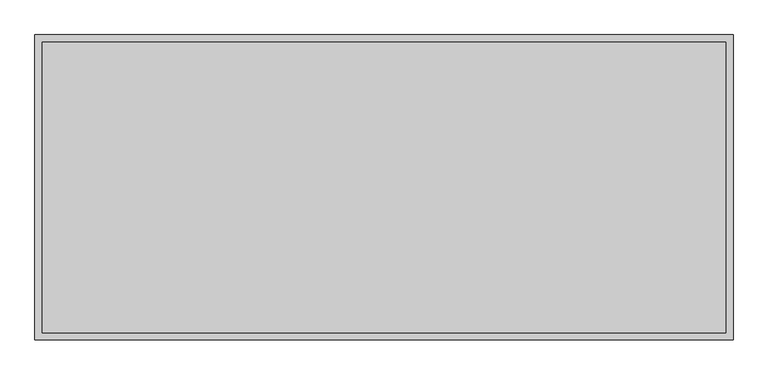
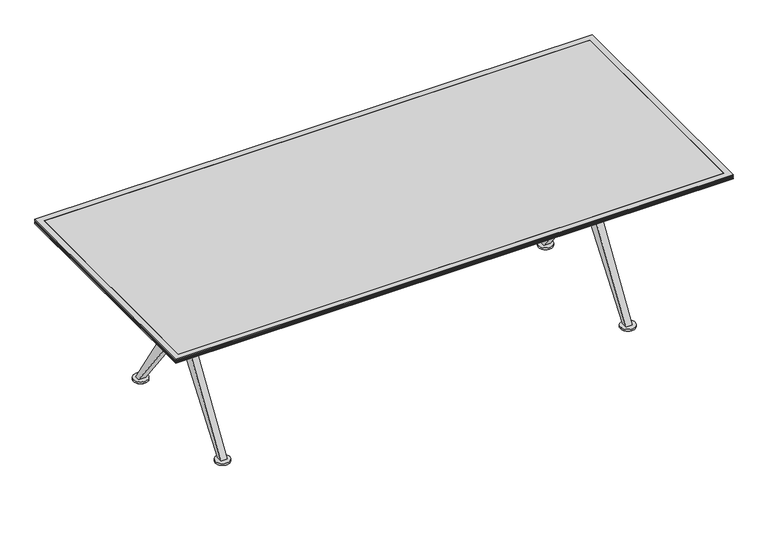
"""IFC4 building model written with IfcOpenShell, lengths in millimetres: furniture geometry, Coalesse_AM_Table_Conference_Ballet_Rectangular_XBase : Folding - 96L x 42W."""

from ifc_helpers import new_model, si_unit, point, frame, frame_2d, origin, origin_with_axes, place, context, project, spatial, polyline, circle_curve, trimmed, segment, composite_curve, outline, extrude, faceted_brep, source, transform, mapped, element, save
from ifc_brep_helpers import plane_surface, cylinder_surface, advanced_brep


def furniture_6506d081(model_context):
    return source(origin(), model_context, "Body", "SolidModel", [
        extrude(outline(composite_curve([segment(trimmed(circle_curve(frame_2d((-885.8365536, 310.3799254)), 25.4), [point((-911.2365536, 310.3799254))], [point((-860.4365536, 310.3799254))], False, "CARTESIAN"), True, "CONTINUOUS"), segment(trimmed(circle_curve(frame_2d((-885.8365536, 310.3799254)), 25.4), [point((-860.4365536, 310.3799254))], [point((-911.2365536, 310.3799254))], False, "CARTESIAN"), True, "CONTINUOUS")], self_intersect=False)), origin_with_axes(), (0.0, 0.0, 1.0), 4.5427804),
        extrude(outline(composite_curve([segment(trimmed(circle_curve(frame_2d((-886.4541541, -311.83186)), 25.4), [point((-911.8541541, -311.83186))], [point((-861.0541541, -311.83186))], False, "CARTESIAN"), True, "CONTINUOUS"), segment(trimmed(circle_curve(frame_2d((-886.4541541, -311.83186)), 25.4), [point((-861.0541541, -311.83186))], [point((-911.8541541, -311.83186))], False, "CARTESIAN"), True, "CONTINUOUS")], self_intersect=False)), origin_with_axes(), (0.0, 0.0, 1.0), 4.5427804),
        extrude(outline(composite_curve([segment(trimmed(circle_curve(frame_2d((885.8365536, 310.388)), 25.4), [point((860.4365536, 310.388))], [point((911.2365536, 310.388))], False, "CARTESIAN"), True, "CONTINUOUS"), segment(trimmed(circle_curve(frame_2d((885.8365536, 310.388)), 25.4), [point((911.2365536, 310.388))], [point((860.4365536, 310.388))], False, "CARTESIAN"), True, "CONTINUOUS")], self_intersect=False)), origin_with_axes(), (0.0, 0.0, 1.0), 4.5427804),
        extrude(outline(composite_curve([segment(trimmed(circle_curve(frame_2d((886.4541541, -311.83186)), 25.4), [point((861.0541541, -311.83186))], [point((911.8541541, -311.83186))], False, "CARTESIAN"), True, "CONTINUOUS"), segment(trimmed(circle_curve(frame_2d((886.4541541, -311.83186)), 25.4), [point((911.8541541, -311.83186))], [point((861.0541541, -311.83186))], False, "CARTESIAN"), True, "CONTINUOUS")], self_intersect=False)), origin_with_axes(), (0.0, 0.0, 1.0), 4.5427804),
        extrude(outline(composite_curve([segment(trimmed(circle_curve(frame_2d((-885.8365536, 310.3799254)), 31.7510292), [point((-917.5875828, 310.3799254))], [point((-854.0855244, 310.3799254))], False, "CARTESIAN"), True, "CONTINUOUS"), segment(trimmed(circle_curve(frame_2d((-885.8365536, 310.3799254)), 31.7510292), [point((-854.0855244, 310.3799254))], [point((-917.5875828, 310.3799254))], False, "CARTESIAN"), True, "CONTINUOUS")], self_intersect=False)), frame((0.0, 0.0, 4.5427804), z_axis=(0.0, 0.0, 1.0), x_axis=(1.0, 0.0, 0.0)), (0.0, 0.0, 1.0), 8.1572196),
        extrude(outline(composite_curve([segment(trimmed(circle_curve(frame_2d((-886.4541541, -311.83186)), 31.75), [point((-918.2041541, -311.83186))], [point((-854.7041541, -311.83186))], False, "CARTESIAN"), True, "CONTINUOUS"), segment(trimmed(circle_curve(frame_2d((-886.4541541, -311.83186)), 31.75), [point((-854.7041541, -311.83186))], [point((-918.2041541, -311.83186))], False, "CARTESIAN"), True, "CONTINUOUS")], self_intersect=False)), frame((0.0, 0.0, 4.5427804), z_axis=(0.0, 0.0, 1.0), x_axis=(1.0, 0.0, 0.0)), (0.0, 0.0, 1.0), 8.1572196),
        extrude(outline(composite_curve([segment(trimmed(circle_curve(frame_2d((885.8365536, 310.388)), 31.7510292), [point((854.0855244, 310.388))], [point((917.5875828, 310.388))], False, "CARTESIAN"), True, "CONTINUOUS"), segment(trimmed(circle_curve(frame_2d((885.8365536, 310.388)), 31.7510292), [point((917.5875828, 310.388))], [point((854.0855244, 310.388))], False, "CARTESIAN"), True, "CONTINUOUS")], self_intersect=False)), frame((0.0, 0.0, 4.5427804), z_axis=(0.0, 0.0, 1.0), x_axis=(1.0, 0.0, 0.0)), (0.0, 0.0, 1.0), 8.1572196),
        extrude(outline(composite_curve([segment(trimmed(circle_curve(frame_2d((886.4541541, -311.83186)), 31.75), [point((854.7041541, -311.83186))], [point((918.2041541, -311.83186))], False, "CARTESIAN"), True, "CONTINUOUS"), segment(trimmed(circle_curve(frame_2d((886.4541541, -311.83186)), 31.75), [point((918.2041541, -311.83186))], [point((854.7041541, -311.83186))], False, "CARTESIAN"), True, "CONTINUOUS")], self_intersect=False)), frame((0.0, 0.0, 4.5427804), z_axis=(0.0, 0.0, 1.0), x_axis=(1.0, 0.0, 0.0)), (0.0, 0.0, 1.0), 8.1572196),
        extrude(outline(polyline([(21.0343629, 381.0), (21.0343629, 482.7111245), (322.2625018, 12.7), (299.8750745, 12.7), (21.0343629, 381.0)])), frame((871.5375, 0.0, 0.0), z_axis=(1.0, 0.0, 0.0), x_axis=(0.0, 1.0, 0.0)), (0.0, 0.0, 1.0), 28.575),
        extrude(outline(polyline([(-21.0343629, 381.0), (-299.8750745, 12.7), (-322.2625018, 12.7), (-21.0343629, 482.7111245), (-21.0343629, 381.0)])), frame((871.5375, 0.0, 0.0), z_axis=(1.0, 0.0, 0.0), x_axis=(0.0, 1.0, 0.0)), (0.0, 0.0, 1.0), 28.575),
        extrude(outline(polyline([(21.0343629, 381.0), (21.0343629, 482.7111245), (322.2625018, 12.7), (299.8750745, 12.7), (21.0343629, 381.0)])), frame((-900.1125, 0.0, 0.0), z_axis=(1.0, 0.0, 0.0), x_axis=(0.0, 1.0, 0.0)), (0.0, 0.0, 1.0), 28.5877172),
        extrude(outline(polyline([(-21.0343629, 381.0), (-299.8750745, 12.7), (-322.2625018, 12.7), (-21.0343629, 482.7111245), (-21.0343629, 381.0)])), frame((-900.1125, 0.0, 0.0), z_axis=(1.0, 0.0, 0.0), x_axis=(0.0, 1.0, 0.0)), (0.0, 0.0, 1.0), 28.5877172),
        extrude(outline(polyline([(-21.0343629, 577.7388634), (-333.375, 698.5000242), (-305.990625, 698.5000242), (-21.0343629, 641.3500242), (-21.0343629, 577.7388634)])), frame((871.5375, 0.0, 0.0), z_axis=(1.0, 0.0, 0.0), x_axis=(0.0, 1.0, 0.0)), (0.0, 0.0, 1.0), 28.575),
        extrude(outline(polyline([(21.0343629, 577.7388634), (21.0343629, 641.3501773), (305.990625, 698.5000242), (333.375, 698.5000242), (21.0343629, 577.7388634)])), frame((871.5375, 0.0, 0.0), z_axis=(1.0, 0.0, 0.0), x_axis=(0.0, 1.0, 0.0)), (0.0, 0.0, 1.0), 28.575),
        extrude(outline(polyline([(-21.0343629, 577.7388634), (-333.375, 698.5000242), (-305.990625, 698.5000242), (-21.0343629, 641.3500242), (-21.0343629, 577.7388634)])), frame((-900.1125, 0.0, 0.0), z_axis=(1.0, 0.0, 0.0), x_axis=(0.0, 1.0, 0.0)), (0.0, 0.0, 1.0), 28.5877172),
        extrude(outline(polyline([(21.0343629, 577.7388634), (21.0343629, 641.3501773), (305.990625, 698.5000242), (333.375, 698.5000242), (21.0343629, 577.7388634)])), frame((-900.1125, 0.0, 0.0), z_axis=(1.0, 0.0, 0.0), x_axis=(0.0, 1.0, 0.0)), (0.0, 0.0, 1.0), 28.5877172),
        advanced_brep(
        [(864.4154775, 12.6999879, 492.1250121), (-864.4154775, 12.6999879, 492.1250121), (-864.4154775, 12.6999879, 568.3250121), (864.4154775, 12.6999879, 568.3250121), (-861.0125298, 0.0, 568.3250121), (-864.4154775, -12.6999879, 568.3250121), (864.4154775, -12.6999879, 568.3250121), (861.0125298, 0.0, 568.3250121), (-864.4154775, -12.6999879, 492.1250121), (864.4154775, -12.6999879, 492.1250121), (861.0125298, 0.0, 492.1250121), (-861.0125298, 0.0, 492.1250121), (-911.8125298, 0.0, 641.3500242), (-861.0125298, 0.0, 641.3500242), (861.0125298, 0.0, 641.3500242), (911.8125298, 0.0, 641.3500242), (-911.8125298, 0.0, 381.0), (-861.0125298, 0.0, 381.0), (861.0125298, 0.0, 381.0), (911.8125298, 0.0, 381.0)],
        [
            (0, 1),
            (1, 2),
            (2, 3),
            (3, 0),
            (2, 4, circle_curve(frame((-886.4125298, 0.0, 568.3250121), z_axis=(0.0, 0.0, -1.0), x_axis=(1.0, 0.0, 0.0)), 25.4)),
            (4, 5, circle_curve(frame((-886.4125298, 0.0, 568.3250121), z_axis=(0.0, 0.0, -1.0), x_axis=(1.0, 0.0, 0.0)), 25.4)),
            (5, 6),
            (6, 7, circle_curve(frame((886.4125298, 0.0, 568.3250121), z_axis=(0.0, 0.0, -1.0), x_axis=(1.0, 0.0, 0.0)), 25.4)),
            (7, 3, circle_curve(frame((886.4125298, 0.0, 568.3250121), z_axis=(0.0, 0.0, -1.0), x_axis=(1.0, 0.0, 0.0)), 25.4)),
            (5, 8),
            (8, 9),
            (9, 6),
            (0, 10, circle_curve(frame((886.4125298, 0.0, 492.1250121), z_axis=(0.0, 0.0, 1.0), x_axis=(1.0, 0.0, 0.0)), 25.4)),
            (10, 9, circle_curve(frame((886.4125298, 0.0, 492.1250121), z_axis=(0.0, 0.0, 1.0), x_axis=(1.0, 0.0, 0.0)), 25.4)),
            (8, 11, circle_curve(frame((-886.4125298, 0.0, 492.1250121), z_axis=(0.0, 0.0, 1.0), x_axis=(1.0, 0.0, 0.0)), 25.4)),
            (11, 1, circle_curve(frame((-886.4125298, 0.0, 492.1250121), z_axis=(0.0, 0.0, 1.0), x_axis=(1.0, 0.0, 0.0)), 25.4)),
            (12, 13, circle_curve(frame((-886.4125298, 0.0, 641.3500242), z_axis=(0.0, 0.0, 1.0), x_axis=(1.0, 0.0, 0.0)), 25.4)),
            (13, 12, circle_curve(frame((-886.4125298, 0.0, 641.3500242), z_axis=(0.0, 0.0, 1.0), x_axis=(1.0, 0.0, 0.0)), 25.4)),
            (14, 15, circle_curve(frame((886.4125298, 0.0, 641.3500242), z_axis=(0.0, 0.0, 1.0), x_axis=(1.0, 0.0, 0.0)), 25.4)),
            (15, 14, circle_curve(frame((886.4125298, 0.0, 641.3500242), z_axis=(0.0, 0.0, 1.0), x_axis=(1.0, 0.0, 0.0)), 25.4)),
            (16, 17, circle_curve(frame((-886.4125298, 0.0, 381.0), z_axis=(0.0, 0.0, -1.0), x_axis=(1.0, 0.0, 0.0)), 25.4)),
            (17, 16, circle_curve(frame((-886.4125298, 0.0, 381.0), z_axis=(0.0, 0.0, -1.0), x_axis=(1.0, 0.0, 0.0)), 25.4)),
            (18, 19, circle_curve(frame((886.4125298, 0.0, 381.0), z_axis=(0.0, 0.0, -1.0), x_axis=(1.0, 0.0, 0.0)), 25.4)),
            (19, 18, circle_curve(frame((886.4125298, 0.0, 381.0), z_axis=(0.0, 0.0, -1.0), x_axis=(1.0, 0.0, 0.0)), 25.4)),
            (12, 16),
            (17, 11),
            (4, 13),
            (14, 7),
            (10, 18),
            (19, 15),
        ],
        [
            plane_surface(frame((871.5375, 12.6999879, 492.1250121), z_axis=(0.0, 1.0, 0.0), x_axis=(-1.0, 0.0, 0.0))),
            plane_surface(frame((871.5375, 12.6999879, 568.3250121), z_axis=(0.0, 0.0, 1.0), x_axis=(-1.0, 0.0, 0.0))),
            plane_surface(frame((871.5375, -12.6999879, 568.3250121), z_axis=(0.0, -1.0, 0.0), x_axis=(-1.0, 0.0, 0.0))),
            plane_surface(frame((871.5375, -12.6999879, 492.1250121), z_axis=(0.0, 0.0, -1.0), x_axis=(-1.0, 0.0, 0.0))),
            plane_surface(frame((-861.0125298, 0.0, 641.3500242), z_axis=(0.0, 0.0, 1.0), x_axis=(0.0, 1.0, 0.0))),
            plane_surface(frame((-861.0125298, 0.0, 381.0), z_axis=(0.0, 0.0, -1.0), x_axis=(0.0, -1.0, 0.0))),
            cylinder_surface(frame((-886.4125298, 0.0, 381.0), z_axis=(0.0, 0.0, 1.0), x_axis=(1.0, 0.0, 0.0)), 25.4),
            cylinder_surface(frame((886.4125298, 0.0, 0.0), z_axis=(0.0, 0.0, 1.0), x_axis=(1.0, 0.0, 0.0)), 25.4),
        ],
        [
            (0, [[1, 2, 3, 4]]),
            (1, [[-3, 5, 6, 7, 8, 9]]),
            (2, [[-7, 10, 11, 12]]),
            (3, [[-1, 13, 14, -11, 15, 16]]),
            (4, [[17, 18]]),
            (4, [[19, 20]]),
            (5, [[21, 22]]),
            (5, [[23, 24]]),
            (6, [[-17, 25, -22, 26, -15, -10, -6, 27]]),
            (6, [[-18, -27, -5, -2, -16, -26, -21, -25]]),
            (7, [[-19, 28, -8, -12, -14, 29, -24, 30]]),
            (7, [[-20, -30, -23, -29, -13, -4, -9, -28]]),
        ],
    ),
        faceted_brep([(-1219.2003633, 533.4, 704.85), (-1193.8003876, 508.0000242, 698.5000242), (-1193.8003876, -507.9999516, 698.5000242), (-1219.2003633, -533.3999273, 704.85), (-1219.2003633, 533.4, 708.0250242), (-1219.2003633, -533.3999273, 708.0250242), (-1216.0253755, 530.2250121, 709.6125), (-1216.0253755, -530.2249394, 709.6125), (-1219.2003633, 533.4, 711.1999758), (-1219.2003633, -533.3999273, 711.1999758), (-1216.0253755, 530.2250121, 712.7875242), (-1216.0253755, -530.2249394, 712.7875242), (-1219.2003633, 533.4, 714.375), (-1219.2003633, -533.3999273, 714.375), (-1216.0253755, 530.2250121, 715.9624758), (-1216.0253755, -530.2249394, 715.9624758), (-1219.2003633, 533.4, 717.5500242), (-1219.2003633, -533.3999273, 717.5500242), (-1216.0253755, 530.2250121, 719.1375), (-1216.0253755, -530.2249394, 719.1375), (-1219.2003633, 533.4, 720.7249758), (-1219.2003633, -533.3999273, 720.7249758), (-1219.2003633, 533.4, 723.9), (-1219.2003633, -533.3999273, 723.9), (-1193.8003876, 508.0000242, 723.9), (-1193.8003876, -507.9999516, 723.9), (1193.8, -507.9999516, 698.5000242), (1219.1999758, -533.3999273, 704.85), (1219.1999758, -533.3999273, 708.0250242), (1216.0249879, -530.2249394, 709.6125), (1219.1999758, -533.3999273, 711.1999758), (1216.0249879, -530.2249394, 712.7875242), (1219.1999758, -533.3999273, 714.375), (1216.0249879, -530.2249394, 715.9624758), (1219.1999758, -533.3999273, 717.5500242), (1216.0249879, -530.2249394, 719.1375), (1219.1999758, -533.3999273, 720.7249758), (1219.1999758, -533.3999273, 723.9), (1193.8, -507.9999516, 723.9), (1193.8, 508.0000242, 698.5000242), (1219.1999758, 533.4, 704.85), (1219.1999758, 533.4, 708.0250242), (1216.0249879, 530.2250121, 709.6125), (1219.1999758, 533.4, 711.1999758), (1216.0249879, 530.2250121, 712.7875242), (1219.1999758, 533.4, 714.375), (1216.0249879, 530.2250121, 715.9624758), (1219.1999758, 533.4, 717.5500242), (1216.0249879, 530.2250121, 719.1375), (1219.1999758, 533.4, 720.7249758), (1219.1999758, 533.4, 723.9), (1193.8, 508.0000242, 723.9)], [[[0, 1, 2, 3]], [[4, 0, 3, 5]], [[6, 4, 5, 7]], [[8, 6, 7, 9]], [[10, 8, 9, 11]], [[12, 10, 11, 13]], [[14, 12, 13, 15]], [[16, 14, 15, 17]], [[18, 16, 17, 19]], [[20, 18, 19, 21]], [[22, 20, 21, 23]], [[1, 24, 25, 2]], [[3, 2, 26, 27]], [[5, 3, 27, 28]], [[7, 5, 28, 29]], [[9, 7, 29, 30]], [[11, 9, 30, 31]], [[13, 11, 31, 32]], [[15, 13, 32, 33]], [[17, 15, 33, 34]], [[19, 17, 34, 35]], [[21, 19, 35, 36]], [[23, 21, 36, 37]], [[2, 25, 38, 26]], [[27, 26, 39, 40]], [[28, 27, 40, 41]], [[29, 28, 41, 42]], [[30, 29, 42, 43]], [[31, 30, 43, 44]], [[32, 31, 44, 45]], [[33, 32, 45, 46]], [[34, 33, 46, 47]], [[35, 34, 47, 48]], [[36, 35, 48, 49]], [[37, 36, 49, 50]], [[26, 38, 51, 39]], [[40, 39, 1, 0]], [[41, 40, 0, 4]], [[42, 41, 4, 6]], [[43, 42, 6, 8]], [[44, 43, 8, 10]], [[45, 44, 10, 12]], [[46, 45, 12, 14]], [[47, 46, 14, 16]], [[48, 47, 16, 18]], [[49, 48, 18, 20]], [[50, 49, 20, 22]], [[23, 37, 50, 22], [24, 51, 38, 25]], [[39, 51, 24, 1]]]),
        extrude(outline(polyline([(1193.8, 508.0000242), (1193.8, -507.9999516), (-1193.8003876, -507.9999516), (-1193.8003876, 508.0000242), (1193.8, 508.0000242)])), frame((0.0, 0.0, 704.85), z_axis=(0.0, 0.0, 1.0), x_axis=(1.0, 0.0, 0.0)), (0.0, 0.0, 1.0), 19.05),
    ])


if __name__ == "__main__":
    model = new_model("IFC4")
    model_context = context("Model", 3, world=origin())
    ifc_project = project(units=[si_unit("LENGTHUNIT", "METRE", prefix="MILLI")], contexts=[model_context])
    site = spatial("IfcSite", under=ifc_project)
    building = spatial("IfcBuilding", under=site)
    placement = place(None, origin())
    furniture_shape = furniture_6506d081(model_context)
    element("IfcFurniture", 1, ObjectType="Coalesse_AM_Table_Conference_Ballet_Rectangular_XBase : Folding - 96L x 42W", at=placement, inside=building, context=model_context, shape_type="MappedRepresentation", body=[
        mapped(furniture_shape, transform((0.0, 0.0, 0.0), x_axis=(1.0, 0.0, 0.0), y_axis=(0.0, 1.0, 0.0), z_axis=(0.0, 0.0, 1.0))),
    ])
    save(model, "model.ifc")
